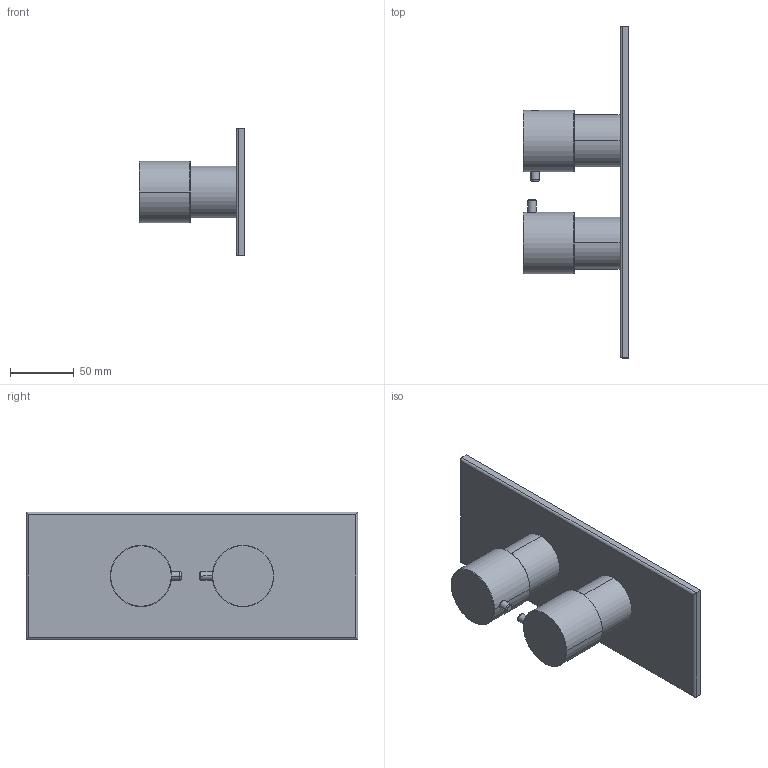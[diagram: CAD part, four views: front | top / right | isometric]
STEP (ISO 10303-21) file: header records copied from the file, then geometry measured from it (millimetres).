
FILE_DESCRIPTION((''),'2;1');
FILE_NAME('F3939X7_FILE_3D','2015-07-02T',('ivanv'),(''),'PRO/ENGINEER BY PARAMETRIC TECHNOLOGY CORPORATION, 2012130','PRO/ENGINEER BY PARAMETRIC TECHNOLOGY CORPORATION, 2012130','');
FILE_SCHEMA(('CONFIG_CONTROL_DESIGN'));
Length unit declared in the file: millimetre
Products named in the file (1): F3939X7_FILE_3D
Bounding box: 83 x 260 x 100 mm (x, y, z)
Volume: 352320 mm3; surface area: 95441.9 mm2
Topology: 2 solids, 3 shells, 256 faces, 681 edges, 429 vertices
Faces by surface type: plane 118, cylinder 88, cone 36, torus 12, sphere 2
Entity records: 9292 total; most frequent: CARTESIAN_POINT 2997, ORIENTED_EDGE 1346, DIRECTION 1285, EDGE_CURVE 673, AXIS2_PLACEMENT_3D 502, VERTEX_POINT 429, VECTOR 281, LINE 281
